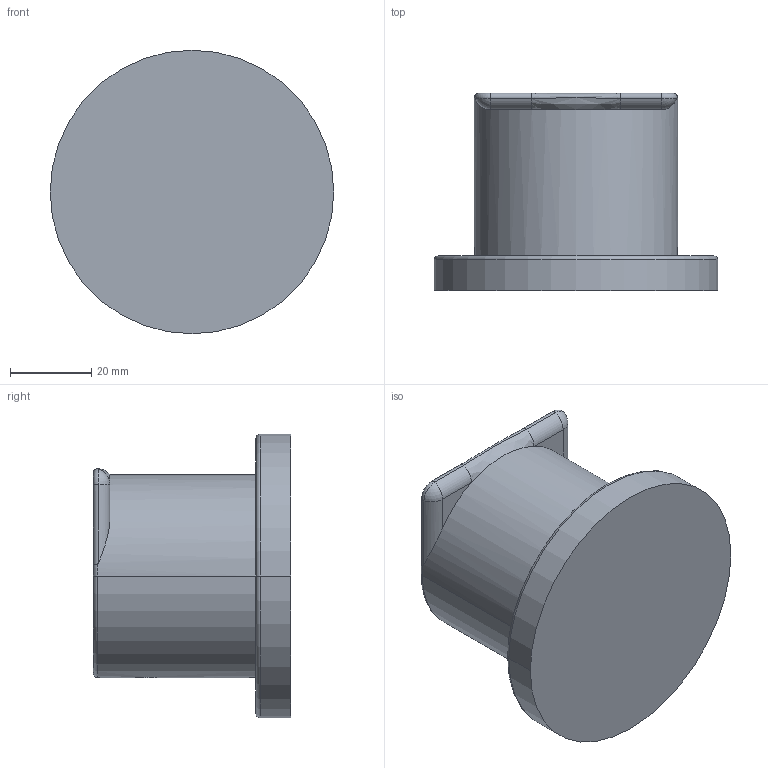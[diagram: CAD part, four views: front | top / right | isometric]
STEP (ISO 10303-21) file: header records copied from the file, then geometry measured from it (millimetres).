
FILE_DESCRIPTION (( 'STEP AP214' ), '1' );
FILE_NAME ('80232710 x architetti.STEP', '2024-06-20T07:42:18', ( '' ), ( '' ), 'SwSTEP 2.0', 'SolidWorks 2020', '' );
FILE_SCHEMA (( 'AUTOMOTIVE_DESIGN' ));
Length unit declared in the file: millimetre
Products named in the file (1): 80232710 x architetti
Bounding box: 69.8 x 48.5 x 69.8 mm (x, y, z)
Volume: 112049.8 mm3; surface area: 16231 mm2
Topology: 1 solids, 1 shells, 31 faces, 67 edges, 40 vertices
Faces by surface type: cylinder 14, torus 7, plane 6, bspline 2, sphere 2
Entity records: 1449 total; most frequent: CARTESIAN_POINT 393, DIRECTION 156, ORIENTED_EDGE 134, AXIS2_PLACEMENT_3D 69, EDGE_CURVE 67, VERTEX_POINT 40, CIRCLE 39, UNCERTAINTY_MEASURE_WITH_UNIT 34
